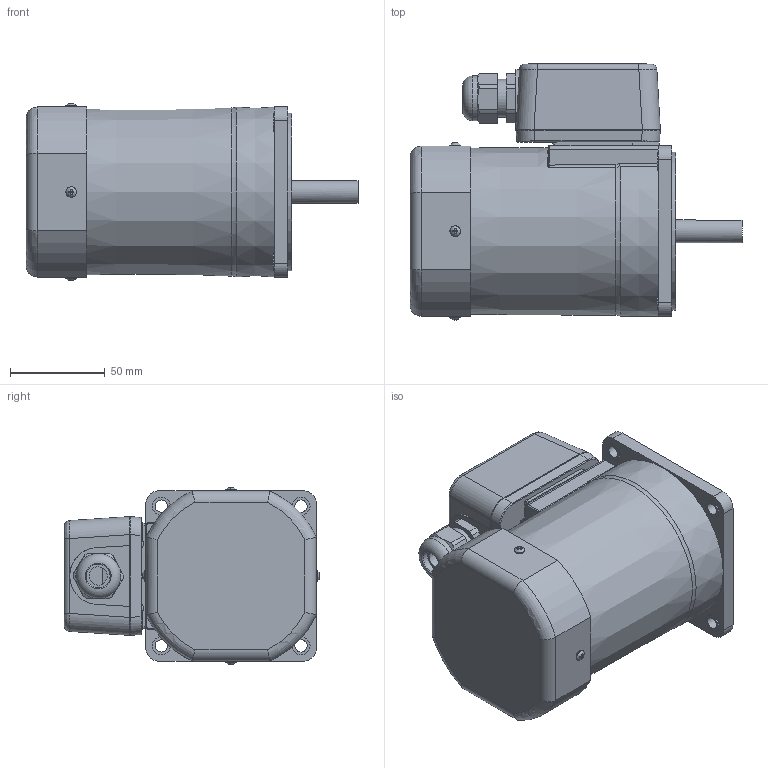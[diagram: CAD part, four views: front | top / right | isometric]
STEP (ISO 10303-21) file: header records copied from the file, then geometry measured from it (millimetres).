
FILE_DESCRIPTION((''),'2;1');
FILE_NAME('D:\김성묵\업무폴더\개발 파일\프로젝트 개발 AB등급\AC표준형 개발자료\90각 이하 표준형 개발\도면작성 자료\3D 도면\홈페이지용 3D 파일\90W MOTOR\T BOX TYPE\S9(I,R)90K-T.stp','2015-03-26T19:01:09',('smkim'),(''),'Autodesk Inventor 2012','Autodesk Inventor 2012','');
FILE_SCHEMA(('AUTOMOTIVE_DESIGN { 1 0 10303 214 1 1 1 1 }'));
Length unit declared in the file: millimetre
Products named in the file (7): S9(I,R)90K-T; S9I90GㅁTCE; FAN COVER; 552300620; 25W_T_BOX; S9I60K
Assembly tree (9 placements, depth 3):
  S9(I,R)90K-T
    S9I90GㅁTCE
    FAN COVER
      FAN COVER
      552300620  x4
    25W_T_BOX
    S9I60K
Bounding box: 174.8 x 134.75 x 93.49 mm (x, y, z)
Volume: 1170946 mm3; surface area: 118021 mm2
Topology: 8 solids, 15 shells, 498 faces, 1196 edges, 763 vertices
Faces by surface type: plane 265, cylinder 132, bspline 55, torus 33, cone 13
Full cylindrical faces by diameter (mm): 2.55 x2, 3 x8, 3.5 x4, 5.6 x8, 6.3 x4, 6.5 x4, 7 x1, 9 x1, 9.5 x4, 12 x1, 12.5 x1, 15 x1, 20 x2, 21 x1, 23.6 x1, 40 x1, 83 x1, 86 x1
Entity records: 14725 total; most frequent: CARTESIAN_POINT 4643, ORIENTED_EDGE 1922, DIRECTION 1907, EDGE_CURVE 961, AXIS2_PLACEMENT_3D 705, VERTEX_POINT 652, EDGE_LOOP 547, VECTOR 497
